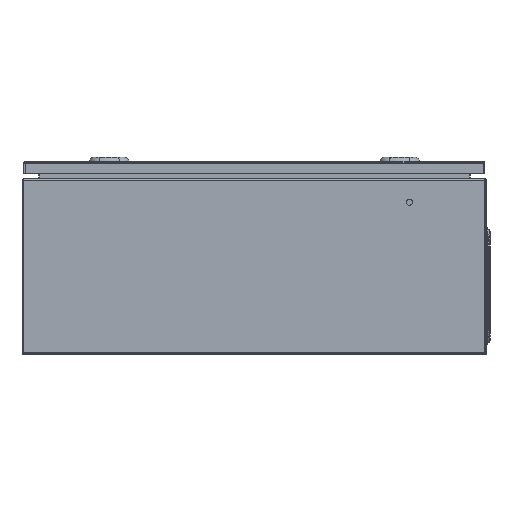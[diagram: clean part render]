
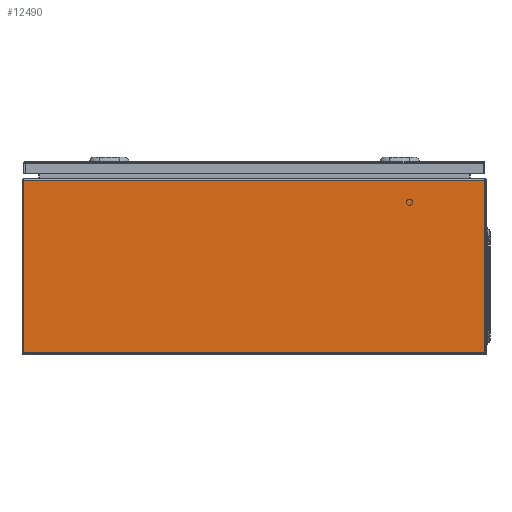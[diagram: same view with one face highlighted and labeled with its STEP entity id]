
A CAD part, left-side view. The second image highlights one B-rep face of the part: STEP entity #12490.
In plain terms, the highlighted planar face has unit normal (-1, 0, 0).
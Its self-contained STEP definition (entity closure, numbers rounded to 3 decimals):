
#490 = LINE ( 'NONE', #22813, #23376 ) ;
#527 = ORIENTED_EDGE ( 'NONE', *, *, #7353, .T. ) ;
#2290 = DIRECTION ( 'NONE',  ( 0., -1., 0. ) ) ;
#3623 = EDGE_CURVE ( 'NONE', #12067, #7341, #21690, .T. ) ;
#3671 = AXIS2_PLACEMENT_3D ( 'NONE', #19114, #8034, #9856 ) ;
#3776 = CARTESIAN_POINT ( 'NONE',  ( -300., -297.5, 224.5 ) ) ;
#5506 = EDGE_CURVE ( 'NONE', #7341, #16995, #490, .T. ) ;
#6820 = VECTOR ( 'NONE', #17931, 1000. ) ;
#7341 = VERTEX_POINT ( 'NONE', #11465 ) ;
#7353 = EDGE_CURVE ( 'NONE', #16995, #17044, #22152, .T. ) ;
#8034 = DIRECTION ( 'NONE',  ( 1., 0., 0. ) ) ;
#8406 = EDGE_LOOP ( 'NONE', ( #21210, #13179, #527, #17288 ) ) ;
#8874 = CARTESIAN_POINT ( 'NONE',  ( -300., -297.5, 2.35 ) ) ;
#9856 = DIRECTION ( 'NONE',  ( 0., 0., -1. ) ) ;
#10149 = CARTESIAN_POINT ( 'NONE',  ( -300., 297.5, 1.5 ) ) ;
#11009 = DIRECTION ( 'NONE',  ( 0., -1., 0. ) ) ;
#11100 = CARTESIAN_POINT ( 'NONE',  ( -300., -297.5, 1.5 ) ) ;
#11369 = CARTESIAN_POINT ( 'NONE',  ( -300., 300., 224.5 ) ) ;
#11465 = CARTESIAN_POINT ( 'NONE',  ( -300., 297.5, 2.35 ) ) ;
#11787 = VECTOR ( 'NONE', #23984, 1000. ) ;
#12067 = VERTEX_POINT ( 'NONE', #22888 ) ;
#12490 = ADVANCED_FACE ( 'NONE', ( #18626 ), #22508, .F. ) ;
#13179 = ORIENTED_EDGE ( 'NONE', *, *, #5506, .T. ) ;
#14759 = EDGE_CURVE ( 'NONE', #12067, #17044, #22658, .T. ) ;
#16995 = VERTEX_POINT ( 'NONE', #8874 ) ;
#17044 = VERTEX_POINT ( 'NONE', #3776 ) ;
#17288 = ORIENTED_EDGE ( 'NONE', *, *, #14759, .F. ) ;
#17931 = DIRECTION ( 'NONE',  ( 0., 0., -1. ) ) ;
#18626 = FACE_OUTER_BOUND ( 'NONE', #8406, .T. ) ;
#19114 = CARTESIAN_POINT ( 'NONE',  ( -300., -300., 1.5 ) ) ;
#21210 = ORIENTED_EDGE ( 'NONE', *, *, #3623, .T. ) ;
#21259 = VECTOR ( 'NONE', #11009, 1000. ) ;
#21690 = LINE ( 'NONE', #10149, #6820 ) ;
#22152 = LINE ( 'NONE', #11100, #11787 ) ;
#22508 = PLANE ( 'NONE',  #3671 ) ;
#22658 = LINE ( 'NONE', #11369, #21259 ) ;
#22813 = CARTESIAN_POINT ( 'NONE',  ( -300., -300., 2.35 ) ) ;
#22888 = CARTESIAN_POINT ( 'NONE',  ( -300., 297.5, 224.5 ) ) ;
#23376 = VECTOR ( 'NONE', #2290, 1000. ) ;
#23984 = DIRECTION ( 'NONE',  ( 0., 0., 1. ) ) ;
